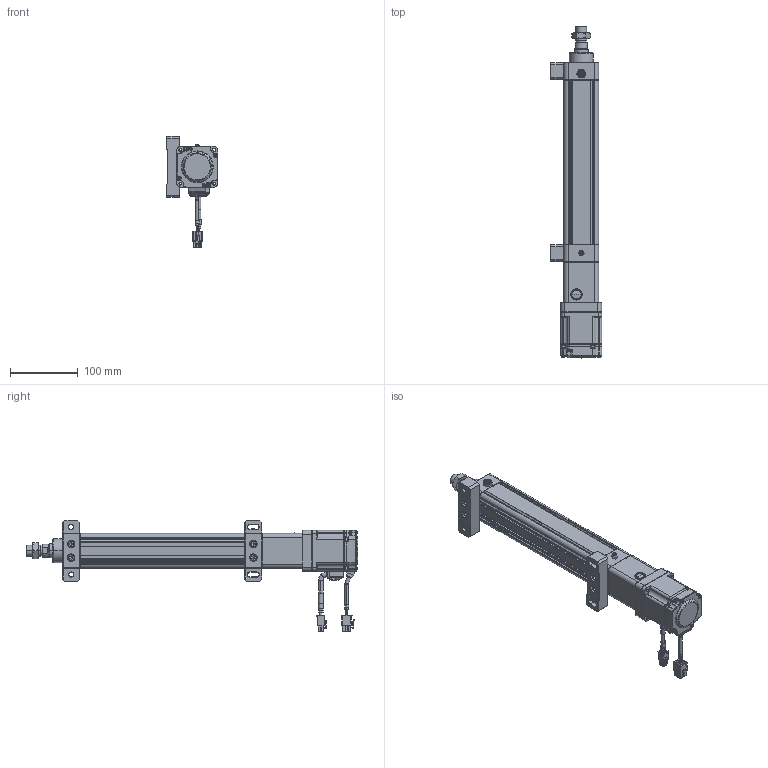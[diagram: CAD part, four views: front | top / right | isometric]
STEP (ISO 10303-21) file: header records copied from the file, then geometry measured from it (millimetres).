
FILE_DESCRIPTION((''),'2;1');
FILE_NAME('HE40-D-100_ASM','2020-05-09T',('ASUS20200'),(''),'CREO PARAMETRIC BY PTC INC, 2014190','CREO PARAMETRIC BY PTC INC, 2014190','');
FILE_SCHEMA(('CONFIG_CONTROL_DESIGN'));
Products named in the file (28): HE40-D-P-001-X1; HE40-D-P-002-X1; HE40-D-P-003-X1; 6200ZZ; HE40-D-009-X1; HE40-D-010-X1; _MHMF022L1A2; _CABLE_MOTOR_BOTTOM_03; _CABLE_MOTOR_TOP_03; _MOTOR_CONNECTOR_2; _CABLE_BRAKE_BOTTOM_03; _CABLE_BRAKE_TOP_03; _MHMF_CONNECTOR_9_PIN_A6; MHMF022L1A2M2_1_ASM; MHMF022L1A2M2_ASM; SLM-01; YZ-M6X1; JDB202820; SKT-13; JX5X5X20; HE40-P-015-X1; HE40-P-016-X1; M6X20; HE40-D-P-005-X1; HE40-D-P-004-X1; HE40-D-P-008-X1; LGLM-M6-22; HE40-D-100_ASM
Assembly tree (33 placements, depth 4):
  HE40-D-100_ASM
    HE40-D-P-001-X1
    HE40-D-P-002-X1
    HE40-D-P-003-X1
    6200ZZ
    HE40-D-009-X1
    HE40-D-010-X1
    MHMF022L1A2M2_ASM
      MHMF022L1A2M2_1_ASM
        _MHMF022L1A2
        _CABLE_MOTOR_BOTTOM_03
        _CABLE_MOTOR_TOP_03
        _MOTOR_CONNECTOR_2
        _CABLE_BRAKE_BOTTOM_03
        _CABLE_BRAKE_TOP_03
        _MHMF_CONNECTOR_9_PIN_A6
    SLM-01
    YZ-M6X1
    JDB202820
    SKT-13
    JX5X5X20
    HE40-P-015-X1
    HE40-P-016-X1
    M6X20  x4
    HE40-D-P-005-X1
    HE40-D-P-004-X1
    HE40-D-P-008-X1
    LGLM-M6-22  x4
Bounding box: 75.5 x 488.5 x 164.2 mm (x, y, z)
Volume: 822885.9 mm3; surface area: 298516.5 mm2
Topology: 31 solids, 60 shells, 2586 faces, 6269 edges, 3871 vertices
Faces by surface type: plane 1105, cylinder 749, cone 590, torus 102, sphere 36, bspline 4
Entity records: 72006 total; most frequent: CARTESIAN_POINT 13447, DIRECTION 12854, ORIENTED_EDGE 11526, EDGE_CURVE 5815, AXIS2_PLACEMENT_3D 4769, VERTEX_POINT 3625, VECTOR 3316, LINE 3316
